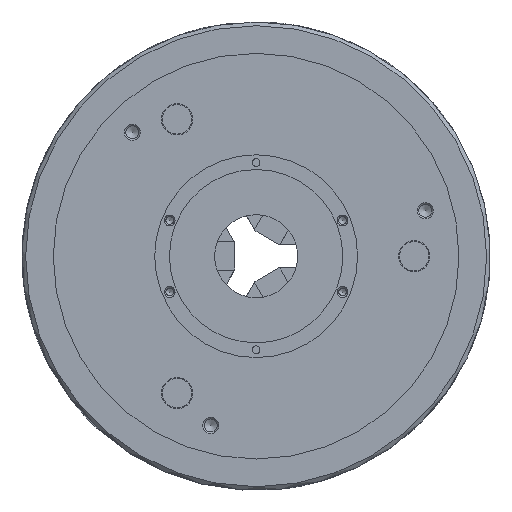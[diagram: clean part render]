
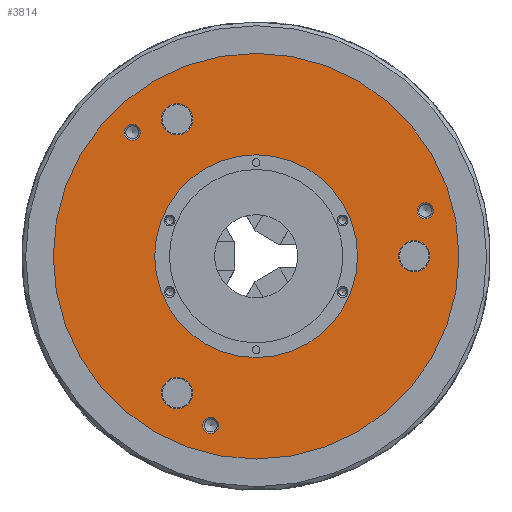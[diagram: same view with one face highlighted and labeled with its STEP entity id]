
A CAD part, left-side view. The second image highlights one B-rep face of the part: STEP entity #3814.
In plain terms, the highlighted planar face has unit normal (-1, 0, 0).
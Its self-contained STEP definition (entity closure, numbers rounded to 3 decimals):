
#241 = ORIENTED_EDGE ( 'NONE', *, *, #38088, .F. ) ;
#555 = DIRECTION ( 'NONE',  ( 0., 0., 1. ) ) ;
#705 = CARTESIAN_POINT ( 'NONE',  ( -98., 0., 0. ) ) ;
#1294 = CARTESIAN_POINT ( 'NONE',  ( -98., -91.763, 24.588 ) ) ;
#2495 = AXIS2_PLACEMENT_3D ( 'NONE', #60527, #28154, #43840 ) ;
#2600 = DIRECTION ( 'NONE',  ( -1., 0., 0. ) ) ;
#2920 = CIRCLE ( 'NONE', #53699, 4.4 ) ;
#3814 = ADVANCED_FACE ( 'NONE', ( #33722, #64575, #61246, #10381, #37092, #19572, #58704, #22079 ), #4468, .T. ) ;
#4468 = PLANE ( 'NONE',  #19982 ) ;
#5411 = EDGE_LOOP ( 'NONE', ( #51963 ) ) ;
#5757 = DIRECTION ( 'NONE',  ( -1., 0., 0. ) ) ;
#7169 = DIRECTION ( 'NONE',  ( 0., 0., 1. ) ) ;
#8461 = CIRCLE ( 'NONE', #55487, 8.5 ) ;
#9559 = CARTESIAN_POINT ( 'NONE',  ( -98., -85.725, 8.5 ) ) ;
#9788 = DIRECTION ( 'NONE',  ( -1., 0., 0. ) ) ;
#10381 = FACE_BOUND ( 'NONE', #5411, .T. ) ;
#11019 = DIRECTION ( 'NONE',  ( -1., 0., 0. ) ) ;
#11106 = DIRECTION ( 'NONE',  ( 0., 0., 1. ) ) ;
#11494 = ORIENTED_EDGE ( 'NONE', *, *, #52321, .F. ) ;
#12854 = CARTESIAN_POINT ( 'NONE',  ( -98., 42.863, -65.74 ) ) ;
#13149 = EDGE_LOOP ( 'NONE', ( #56124 ) ) ;
#13344 = CIRCLE ( 'NONE', #54142, 55. ) ;
#14063 = EDGE_LOOP ( 'NONE', ( #38836 ) ) ;
#14849 = CARTESIAN_POINT ( 'NONE',  ( -98., 24.588, -91.763 ) ) ;
#15160 = DIRECTION ( 'NONE',  ( 0., 0., 1. ) ) ;
#16339 = ORIENTED_EDGE ( 'NONE', *, *, #28590, .F. ) ;
#16963 = VERTEX_POINT ( 'NONE', #45069 ) ;
#17789 = VERTEX_POINT ( 'NONE', #9559 ) ;
#18481 = CARTESIAN_POINT ( 'NONE',  ( -98., -91.763, 28.988 ) ) ;
#19425 = CIRCLE ( 'NONE', #2495, 110. ) ;
#19572 = FACE_BOUND ( 'NONE', #52116, .T. ) ;
#19982 = AXIS2_PLACEMENT_3D ( 'NONE', #41789, #9788, #15160 ) ;
#22079 = FACE_BOUND ( 'NONE', #31294, .T. ) ;
#22326 = CIRCLE ( 'NONE', #53510, 8.5 ) ;
#22582 = EDGE_CURVE ( 'NONE', #27782, #27782, #40884, .T. ) ;
#27190 = AXIS2_PLACEMENT_3D ( 'NONE', #14849, #67068, #57256 ) ;
#27676 = EDGE_LOOP ( 'NONE', ( #36003 ) ) ;
#27782 = VERTEX_POINT ( 'NONE', #18481 ) ;
#28154 = DIRECTION ( 'NONE',  ( 1., 0., 0. ) ) ;
#28331 = EDGE_CURVE ( 'NONE', #67823, #67823, #68243, .T. ) ;
#28590 = EDGE_CURVE ( 'NONE', #55328, #55328, #22326, .T. ) ;
#29442 = ORIENTED_EDGE ( 'NONE', *, *, #22582, .F. ) ;
#31294 = EDGE_LOOP ( 'NONE', ( #11494 ) ) ;
#32064 = EDGE_CURVE ( 'NONE', #16963, #16963, #2920, .T. ) ;
#32384 = DIRECTION ( 'NONE',  ( 0., 0., 1. ) ) ;
#33334 = AXIS2_PLACEMENT_3D ( 'NONE', #48703, #65654, #7169 ) ;
#33722 = FACE_BOUND ( 'NONE', #13149, .T. ) ;
#34071 = EDGE_CURVE ( 'NONE', #50317, #50317, #50276, .T. ) ;
#35966 = CARTESIAN_POINT ( 'NONE',  ( -98., 42.863, 82.74 ) ) ;
#36003 = ORIENTED_EDGE ( 'NONE', *, *, #43397, .F. ) ;
#37092 = FACE_BOUND ( 'NONE', #27676, .T. ) ;
#37784 = DIRECTION ( 'NONE',  ( -1., 0., 0. ) ) ;
#38088 = EDGE_CURVE ( 'NONE', #51125, #51125, #19425, .T. ) ;
#38407 = CARTESIAN_POINT ( 'NONE',  ( -98., 42.863, -74.24 ) ) ;
#38609 = DIRECTION ( 'NONE',  ( 0., 0., 1. ) ) ;
#38836 = ORIENTED_EDGE ( 'NONE', *, *, #28331, .F. ) ;
#39907 = DIRECTION ( 'NONE',  ( 0., 0., 1. ) ) ;
#40337 = AXIS2_PLACEMENT_3D ( 'NONE', #1294, #54650, #38609 ) ;
#40884 = CIRCLE ( 'NONE', #40337, 4.4 ) ;
#41575 = CARTESIAN_POINT ( 'NONE',  ( -98., 0., -110. ) ) ;
#41789 = CARTESIAN_POINT ( 'NONE',  ( -98., 110., 0. ) ) ;
#43017 = CARTESIAN_POINT ( 'NONE',  ( -98., 67.175, 67.175 ) ) ;
#43397 = EDGE_CURVE ( 'NONE', #17789, #17789, #8461, .T. ) ;
#43840 = DIRECTION ( 'NONE',  ( 0., 0., -1. ) ) ;
#45069 = CARTESIAN_POINT ( 'NONE',  ( -98., 67.175, 71.575 ) ) ;
#46255 = EDGE_LOOP ( 'NONE', ( #29442 ) ) ;
#48703 = CARTESIAN_POINT ( 'NONE',  ( -98., 42.863, 74.24 ) ) ;
#50276 = CIRCLE ( 'NONE', #33334, 8.5 ) ;
#50317 = VERTEX_POINT ( 'NONE', #35966 ) ;
#50594 = CARTESIAN_POINT ( 'NONE',  ( -98., 24.588, -87.363 ) ) ;
#51125 = VERTEX_POINT ( 'NONE', #41575 ) ;
#51963 = ORIENTED_EDGE ( 'NONE', *, *, #34071, .F. ) ;
#52116 = EDGE_LOOP ( 'NONE', ( #16339 ) ) ;
#52321 = EDGE_CURVE ( 'NONE', #55270, #55270, #13344, .T. ) ;
#53510 = AXIS2_PLACEMENT_3D ( 'NONE', #38407, #5757, #11106 ) ;
#53699 = AXIS2_PLACEMENT_3D ( 'NONE', #43017, #11019, #555 ) ;
#54142 = AXIS2_PLACEMENT_3D ( 'NONE', #705, #37784, #32384 ) ;
#54650 = DIRECTION ( 'NONE',  ( -1., 0., 0. ) ) ;
#55270 = VERTEX_POINT ( 'NONE', #63391 ) ;
#55328 = VERTEX_POINT ( 'NONE', #12854 ) ;
#55487 = AXIS2_PLACEMENT_3D ( 'NONE', #66396, #2600, #39907 ) ;
#56124 = ORIENTED_EDGE ( 'NONE', *, *, #32064, .F. ) ;
#57256 = DIRECTION ( 'NONE',  ( 0., 0., 1. ) ) ;
#58704 = FACE_OUTER_BOUND ( 'NONE', #66720, .T. ) ;
#60527 = CARTESIAN_POINT ( 'NONE',  ( -98., 0., 0. ) ) ;
#61246 = FACE_BOUND ( 'NONE', #14063, .T. ) ;
#63391 = CARTESIAN_POINT ( 'NONE',  ( -98., 0., 55. ) ) ;
#64575 = FACE_BOUND ( 'NONE', #46255, .T. ) ;
#65654 = DIRECTION ( 'NONE',  ( -1., 0., 0. ) ) ;
#66396 = CARTESIAN_POINT ( 'NONE',  ( -98., -85.725, 0. ) ) ;
#66720 = EDGE_LOOP ( 'NONE', ( #241 ) ) ;
#67068 = DIRECTION ( 'NONE',  ( -1., 0., 0. ) ) ;
#67823 = VERTEX_POINT ( 'NONE', #50594 ) ;
#68243 = CIRCLE ( 'NONE', #27190, 4.4 ) ;
